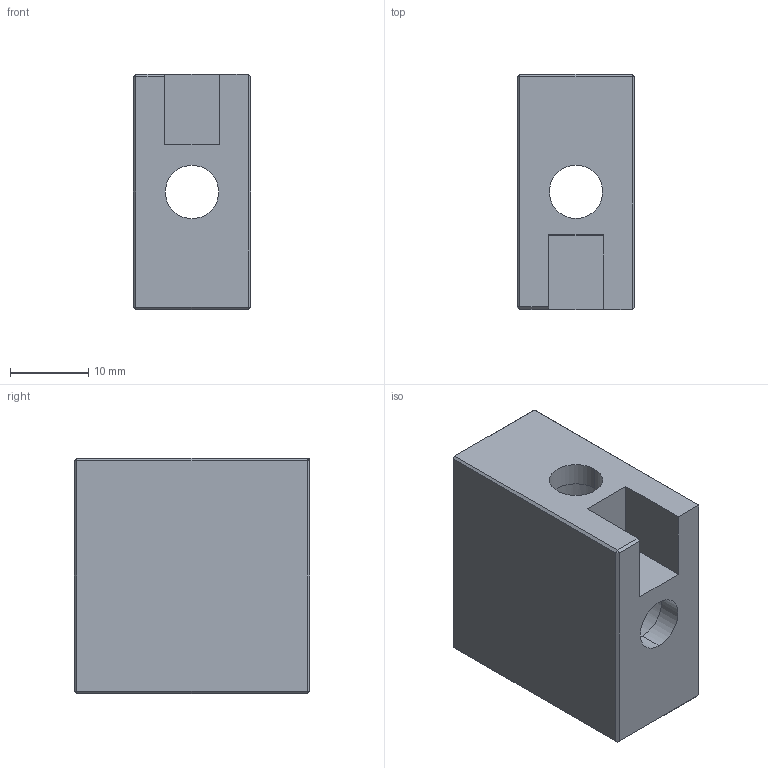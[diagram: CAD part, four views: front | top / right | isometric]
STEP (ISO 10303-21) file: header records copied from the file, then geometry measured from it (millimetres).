
FILE_DESCRIPTION (( 'STEP AP203' ), '1' );
FILE_NAME ('DCB1530-6.STEP', '2018-07-03T07:18:29', ( '' ), ( '' ), 'SwSTEP 2.0', 'SolidWorks 2012', '' );
FILE_SCHEMA (( 'CONFIG_CONTROL_DESIGN' ));
Length unit declared in the file: millimetre
Products named in the file (1): DCB1530-6
Bounding box: 15 x 30 x 30 mm (x, y, z)
Volume: 8763.6 mm3; surface area: 5031.7 mm2
Topology: 1 solids, 1 shells, 47 faces, 103 edges, 58 vertices
Faces by surface type: plane 31, cylinder 12, cone 4
Entity records: 1330 total; most frequent: CARTESIAN_POINT 233, DIRECTION 211, ORIENTED_EDGE 206, EDGE_CURVE 103, VECTOR 75, LINE 75, AXIS2_PLACEMENT_3D 68, VERTEX_POINT 58
